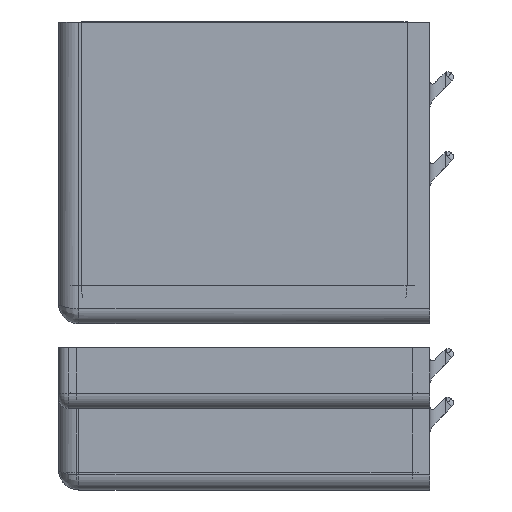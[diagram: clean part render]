
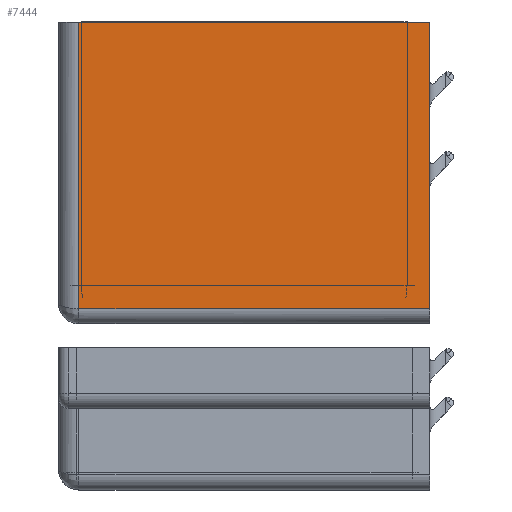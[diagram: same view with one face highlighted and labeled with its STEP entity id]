
A CAD part, left-side view. The second image highlights one B-rep face of the part: STEP entity #7444.
In plain terms, the highlighted planar face has unit normal (-1, 0, 0).
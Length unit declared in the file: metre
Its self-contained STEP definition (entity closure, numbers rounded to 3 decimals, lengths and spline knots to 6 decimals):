
#165=PLANE('',#8064);
#554=LINE('',#11000,#1159);
#564=LINE('',#11275,#1169);
#565=LINE('',#11277,#1170);
#566=LINE('',#11284,#1171);
#1159=VECTOR('',#8803,1.);
#1169=VECTOR('',#8831,1.);
#1170=VECTOR('',#8834,1.);
#1171=VECTOR('',#8835,1.);
#2036=ORIENTED_EDGE('',*,*,#4286,.F.);
#2037=ORIENTED_EDGE('',*,*,#4312,.F.);
#2038=ORIENTED_EDGE('',*,*,#4313,.F.);
#2039=ORIENTED_EDGE('',*,*,#4314,.F.);
#2040=ORIENTED_EDGE('',*,*,#4315,.T.);
#2041=ORIENTED_EDGE('',*,*,#4287,.T.);
#4286=EDGE_CURVE('',#5429,#5430,#554,.T.);
#4287=EDGE_CURVE('',#5431,#5430,#6123,.T.);
#4312=EDGE_CURVE('',#5449,#5429,#564,.T.);
#4313=EDGE_CURVE('',#5450,#5449,#565,.T.);
#4314=EDGE_CURVE('',#5451,#5450,#6135,.F.);
#4315=EDGE_CURVE('',#5451,#5431,#566,.T.);
#5429=VERTEX_POINT('',#10993);
#5430=VERTEX_POINT('',#11001);
#5431=VERTEX_POINT('',#11006);
#5449=VERTEX_POINT('',#11274);
#5450=VERTEX_POINT('',#11278);
#5451=VERTEX_POINT('',#11283);
#6123=B_SPLINE_CURVE_WITH_KNOTS('',3,(#11002,#11003,#11004,#11005),
 .UNSPECIFIED.,.F.,.F.,(4,4),(0.,1.),.UNSPECIFIED.);
#6135=B_SPLINE_CURVE_WITH_KNOTS('',3,(#11279,#11280,#11281,#11282),
 .UNSPECIFIED.,.F.,.F.,(4,4),(0.,1.),.UNSPECIFIED.);
#6374=EDGE_LOOP('',(#2036,#2037,#2038,#2039,#2040,#2041));
#6891=FACE_BOUND('',#6374,.T.);
#7444=ADVANCED_FACE('',(#6891),#165,.T.);
#8064=AXIS2_PLACEMENT_3D('',#11276,#8832,#8833);
#8803=DIRECTION('',(0.,0.,1.));
#8831=DIRECTION('',(0.,1.,0.));
#8832=DIRECTION('',(-1.,0.,0.));
#8833=DIRECTION('',(0.,0.,1.));
#8834=DIRECTION('',(0.,0.,-1.));
#8835=DIRECTION('',(0.,1.,0.));
#10993=CARTESIAN_POINT('',(-0.303575,-0.005,0.040717));
#11000=CARTESIAN_POINT('',(-0.303575,-0.005,0.044717));
#11001=CARTESIAN_POINT('',(-0.303575,-0.005,0.065717));
#11002=CARTESIAN_POINT('',(-0.303575,-0.005,0.09705));
#11003=CARTESIAN_POINT('',(-0.303575,-0.005,0.086606));
#11004=CARTESIAN_POINT('',(-0.303575,-0.005,0.076161));
#11005=CARTESIAN_POINT('',(-0.303575,-0.005,0.065717));
#11006=CARTESIAN_POINT('',(-0.303575,-0.005,0.09705));
#11274=CARTESIAN_POINT('',(-0.303575,-0.074,0.040717));
#11275=CARTESIAN_POINT('',(-0.303575,-0.074,0.040717));
#11276=CARTESIAN_POINT('',(-0.303575,-0.074,0.037717));
#11277=CARTESIAN_POINT('',(-0.303575,-0.074,0.065717));
#11278=CARTESIAN_POINT('',(-0.303575,-0.074,0.065717));
#11279=CARTESIAN_POINT('',(-0.303575,-0.074,0.065717));
#11280=CARTESIAN_POINT('',(-0.303575,-0.074,0.076161));
#11281=CARTESIAN_POINT('',(-0.303575,-0.074,0.086606));
#11282=CARTESIAN_POINT('',(-0.303575,-0.074,0.09705));
#11283=CARTESIAN_POINT('',(-0.303575,-0.074,0.09705));
#11284=CARTESIAN_POINT('',(-0.303575,-0.074,0.09705));
